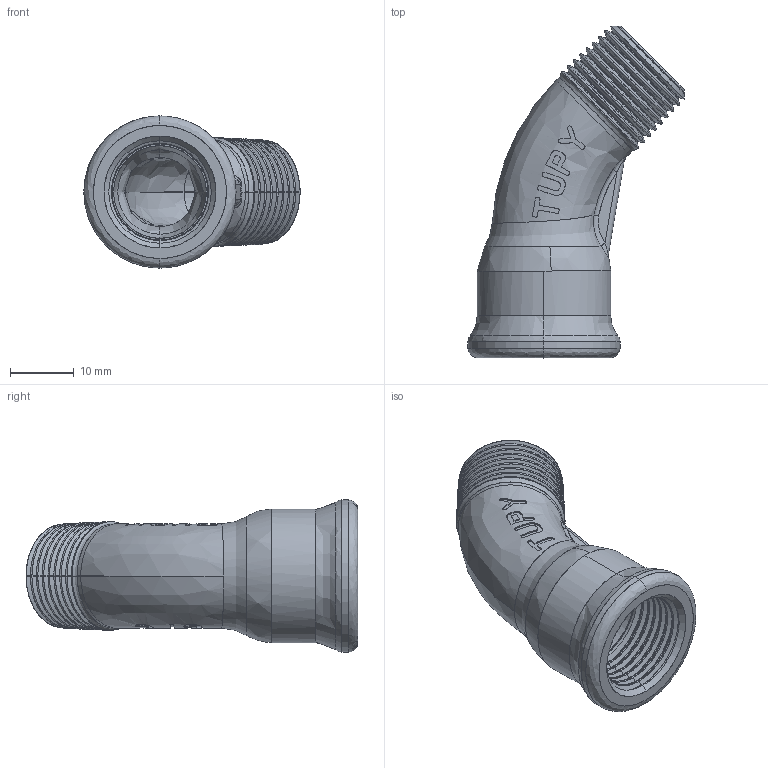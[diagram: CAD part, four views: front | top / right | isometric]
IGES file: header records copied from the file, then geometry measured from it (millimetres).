
Start section: SolidWorks IGES file using analytic representation for surfaces
Global section: file name: C:\Users\Joel Rosa\Desktop\Tubulação\12-27-OK\12-27-003.IGS; native system: SolidWorks 2011; preprocessor: SolidWorks 2011; author: Joel Rosa; date: 130205.213747; units: millimetre
Bounding box: 33.82 x 51.92 x 23.8 mm (x, y, z)
Surface area: 6100.4 mm2 (no closed solid volume)
Topology: 0 solids, 0 shells, 322 faces, 3253 edges, 3253 vertices
Faces by surface type: bspline 236, revolution 86
